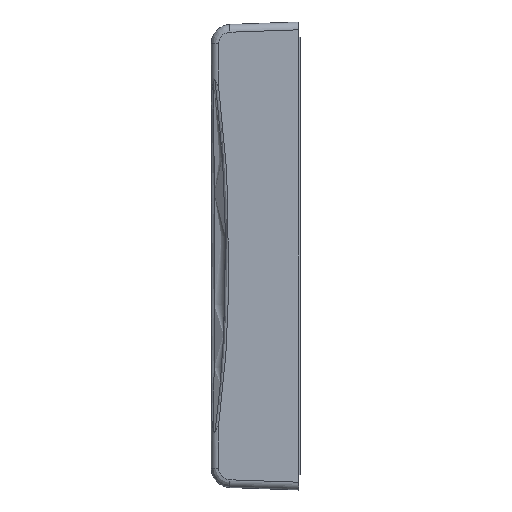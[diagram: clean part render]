
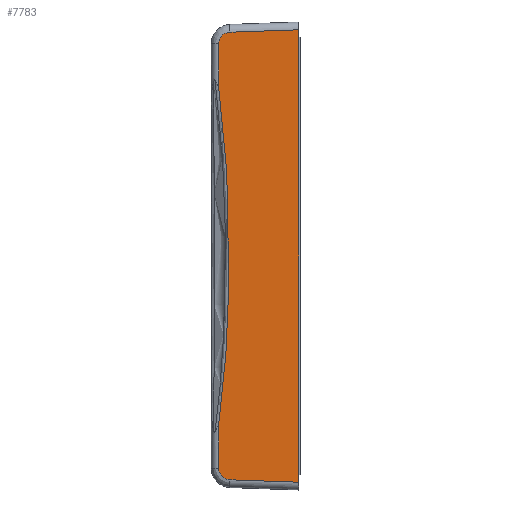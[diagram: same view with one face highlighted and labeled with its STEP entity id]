
A CAD part, left-side view. The second image highlights one B-rep face of the part: STEP entity #7783.
In plain terms, the highlighted planar face has unit normal (-0.999, 0.035, 0).
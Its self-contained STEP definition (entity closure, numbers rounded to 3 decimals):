
#317 = DIRECTION ( 'NONE',  ( 0., 0., 1. ) ) ;
#664 = EDGE_CURVE ( 'NONE', #7652, #1544, #7691, .T. ) ;
#704 = VERTEX_POINT ( 'NONE', #7536 ) ;
#749 = VECTOR ( 'NONE', #6472, 1000. ) ;
#1008 = CARTESIAN_POINT ( 'NONE',  ( -39.32, 19.477, -34.333 ) ) ;
#1404 =( BOUNDED_CURVE ( )  B_SPLINE_CURVE ( 3, ( #8970, #10029, #14944, #13659 ),
 .UNSPECIFIED., .F., .T. ) 
 B_SPLINE_CURVE_WITH_KNOTS ( ( 4, 4 ),
 ( 3.142, 4.677 ),
 .UNSPECIFIED. ) 
 CURVE ( )  GEOMETRIC_REPRESENTATION_ITEM ( )  RATIONAL_B_SPLINE_CURVE ( ( 1., 0.813, 0.813, 1. ) ) 
 REPRESENTATION_ITEM ( '' )  );
#1475 = CARTESIAN_POINT ( 'NONE',  ( -39.323, 19.383, 57.324 ) ) ;
#1544 = VERTEX_POINT ( 'NONE', #13043 ) ;
#1682 = FACE_OUTER_BOUND ( 'NONE', #10173, .T. ) ;
#1717 = LINE ( 'NONE', #5514, #12103 ) ;
#1840 = VECTOR ( 'NONE', #3716, 1000. ) ;
#1947 = ORIENTED_EDGE ( 'NONE', *, *, #11935, .T. ) ;
#2221 = CARTESIAN_POINT ( 'NONE',  ( -39.375, 17.885, 7.226 ) ) ;
#2469 = CARTESIAN_POINT ( 'NONE',  ( -39.282, 20.57, 43.317 ) ) ;
#2492 = VERTEX_POINT ( 'NONE', #11768 ) ;
#2500 = CARTESIAN_POINT ( 'NONE',  ( -39.282, 20.57, 0. ) ) ;
#3117 = AXIS2_PLACEMENT_3D ( 'NONE', #6551, #13834, #10432 ) ;
#3434 = CARTESIAN_POINT ( 'NONE',  ( -39.368, 18.086, 14.472 ) ) ;
#3716 = DIRECTION ( 'NONE',  ( 0., 0., -1. ) ) ;
#3765 = CARTESIAN_POINT ( 'NONE',  ( -39.346, 18.715, 25.314 ) ) ;
#3811 = VERTEX_POINT ( 'NONE', #9466 ) ;
#3820 = VECTOR ( 'NONE', #4763, 1000. ) ;
#4052 = ORIENTED_EDGE ( 'NONE', *, *, #13431, .T. ) ;
#4723 = CARTESIAN_POINT ( 'NONE',  ( -39.282, 20.57, -43.317 ) ) ;
#4763 = DIRECTION ( 'NONE',  ( 0.035, 0.999, -0.035 ) ) ;
#4885 = VERTEX_POINT ( 'NONE', #7687 ) ;
#4886 = CARTESIAN_POINT ( 'NONE',  ( -39.337, 18.979, -28.923 ) ) ;
#4928 = LINE ( 'NONE', #2500, #749 ) ;
#5061 = CARTESIAN_POINT ( 'NONE',  ( -39.313, 19.66, 36.134 ) ) ;
#5206 = CARTESIAN_POINT ( 'NONE',  ( -39.282, 20.57, -43.317 ) ) ;
#5293 = VERTEX_POINT ( 'NONE', #7159 ) ;
#5514 = CARTESIAN_POINT ( 'NONE',  ( -39.856, 4.111, -57.858 ) ) ;
#5945 = CARTESIAN_POINT ( 'NONE',  ( -39.346, 18.715, -25.314 ) ) ;
#6220 = VECTOR ( 'NONE', #317, 1000. ) ;
#6388 = CARTESIAN_POINT ( 'NONE',  ( -39.282, 20.57, 60. ) ) ;
#6472 = DIRECTION ( 'NONE',  ( 0., 0., -1. ) ) ;
#6551 = CARTESIAN_POINT ( 'NONE',  ( -40., 0., 60. ) ) ;
#6629 = PLANE ( 'NONE',  #3117 ) ;
#7159 = CARTESIAN_POINT ( 'NONE',  ( -40., 0., -58.001 ) ) ;
#7161 = CARTESIAN_POINT ( 'NONE',  ( -39.368, 18.086, -14.48 ) ) ;
#7536 = CARTESIAN_POINT ( 'NONE',  ( -39.282, 20.57, -54.386 ) ) ;
#7652 = VERTEX_POINT ( 'NONE', #10197 ) ;
#7687 = CARTESIAN_POINT ( 'NONE',  ( -39.383, 17.674, -57.384 ) ) ;
#7691 = LINE ( 'NONE', #6388, #1840 ) ;
#7781 = EDGE_CURVE ( 'NONE', #5293, #2492, #9220, .T. ) ;
#7783 = ADVANCED_FACE ( 'NONE', ( #1682 ), #6629, .T. ) ;
#8344 = CARTESIAN_POINT ( 'NONE',  ( -40.002, -0.07, 58.004 ) ) ;
#8547 = CARTESIAN_POINT ( 'NONE',  ( -39.313, 19.66, -36.134 ) ) ;
#8970 = CARTESIAN_POINT ( 'NONE',  ( -39.282, 20.57, -54.386 ) ) ;
#9220 = LINE ( 'NONE', #12776, #6220 ) ;
#9466 = CARTESIAN_POINT ( 'NONE',  ( -39.383, 17.674, 57.384 ) ) ;
#9566 = ORIENTED_EDGE ( 'NONE', *, *, #664, .T. ) ;
#9967 = ORIENTED_EDGE ( 'NONE', *, *, #11629, .T. ) ;
#10029 = CARTESIAN_POINT ( 'NONE',  ( -39.282, 20.57, -56.095 ) ) ;
#10173 = EDGE_LOOP ( 'NONE', ( #9967, #9566, #11098, #4052, #15042, #14128, #14451, #1947 ) ) ;
#10197 = CARTESIAN_POINT ( 'NONE',  ( -39.282, 20.57, 54.386 ) ) ;
#10228 = CARTESIAN_POINT ( 'NONE',  ( -39.282, 20.57, 54.386 ) ) ;
#10417 = VERTEX_POINT ( 'NONE', #5206 ) ;
#10432 = DIRECTION ( 'NONE',  ( -0.035, -0.999, 0. ) ) ;
#10565 = EDGE_CURVE ( 'NONE', #4885, #5293, #1717, .T. ) ;
#10888 = CARTESIAN_POINT ( 'NONE',  ( -39.299, 20.072, -39.731 ) ) ;
#11058 = EDGE_CURVE ( 'NONE', #1544, #10417, #11300, .T. ) ;
#11098 = ORIENTED_EDGE ( 'NONE', *, *, #11058, .T. ) ;
#11300 = B_SPLINE_CURVE_WITH_KNOTS ( 'NONE', 3,
 ( #2469, #13311, #13563, #5061, #14675, #14849, #3765, #3434, #2221, #15974, #7161, #5945, #4886, #1008, #8547, #10888, #13479, #4723 ),
 .UNSPECIFIED., .F., .F.,
 ( 4, 2, 2, 2, 2, 2, 2, 2, 4 ),
 ( 0.007, 0.013, 0.018, 0.03, 0.052, 0.074, 0.085, 0.091, 0.096 ),
 .UNSPECIFIED. ) ;
#11427 =( BOUNDED_CURVE ( )  B_SPLINE_CURVE ( 3, ( #12404, #1475, #13942, #10228 ),
 .UNSPECIFIED., .F., .T. ) 
 B_SPLINE_CURVE_WITH_KNOTS ( ( 4, 4 ),
 ( 4.747, 6.283 ),
 .UNSPECIFIED. ) 
 CURVE ( )  GEOMETRIC_REPRESENTATION_ITEM ( )  RATIONAL_B_SPLINE_CURVE ( ( 1., 0.813, 0.813, 1. ) ) 
 REPRESENTATION_ITEM ( '' )  );
#11629 = EDGE_CURVE ( 'NONE', #3811, #7652, #11427, .T. ) ;
#11768 = CARTESIAN_POINT ( 'NONE',  ( -40., 0., 58.001 ) ) ;
#11935 = EDGE_CURVE ( 'NONE', #2492, #3811, #15779, .T. ) ;
#12103 = VECTOR ( 'NONE', #15387, 1000. ) ;
#12404 = CARTESIAN_POINT ( 'NONE',  ( -39.383, 17.674, 57.384 ) ) ;
#12474 = EDGE_CURVE ( 'NONE', #704, #4885, #1404, .T. ) ;
#12776 = CARTESIAN_POINT ( 'NONE',  ( -40., 0., 60. ) ) ;
#13043 = CARTESIAN_POINT ( 'NONE',  ( -39.282, 20.57, 43.317 ) ) ;
#13311 = CARTESIAN_POINT ( 'NONE',  ( -39.291, 20.3, 41.527 ) ) ;
#13431 = EDGE_CURVE ( 'NONE', #10417, #704, #4928, .T. ) ;
#13479 = CARTESIAN_POINT ( 'NONE',  ( -39.291, 20.3, -41.527 ) ) ;
#13563 = CARTESIAN_POINT ( 'NONE',  ( -39.299, 20.072, 39.731 ) ) ;
#13659 = CARTESIAN_POINT ( 'NONE',  ( -39.383, 17.674, -57.384 ) ) ;
#13834 = DIRECTION ( 'NONE',  ( -0.999, 0.035, 0. ) ) ;
#13942 = CARTESIAN_POINT ( 'NONE',  ( -39.282, 20.57, 56.095 ) ) ;
#14128 = ORIENTED_EDGE ( 'NONE', *, *, #10565, .T. ) ;
#14451 = ORIENTED_EDGE ( 'NONE', *, *, #7781, .T. ) ;
#14675 = CARTESIAN_POINT ( 'NONE',  ( -39.32, 19.477, 34.332 ) ) ;
#14849 = CARTESIAN_POINT ( 'NONE',  ( -39.337, 18.979, 28.924 ) ) ;
#14944 = CARTESIAN_POINT ( 'NONE',  ( -39.323, 19.383, -57.324 ) ) ;
#15042 = ORIENTED_EDGE ( 'NONE', *, *, #12474, .T. ) ;
#15387 = DIRECTION ( 'NONE',  ( -0.035, -0.999, -0.035 ) ) ;
#15779 = LINE ( 'NONE', #8344, #3820 ) ;
#15974 = CARTESIAN_POINT ( 'NONE',  ( -39.375, 17.885, -7.25 ) ) ;
